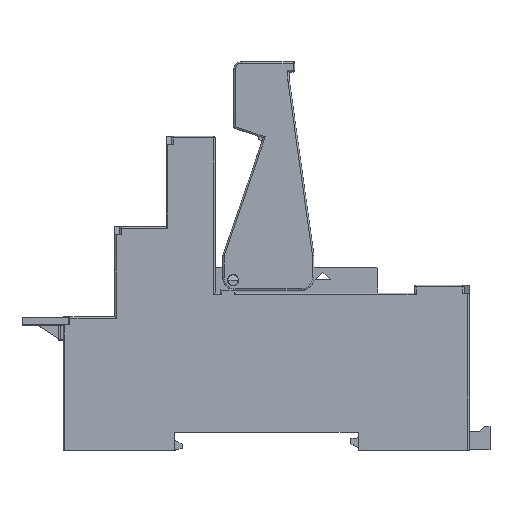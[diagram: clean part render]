
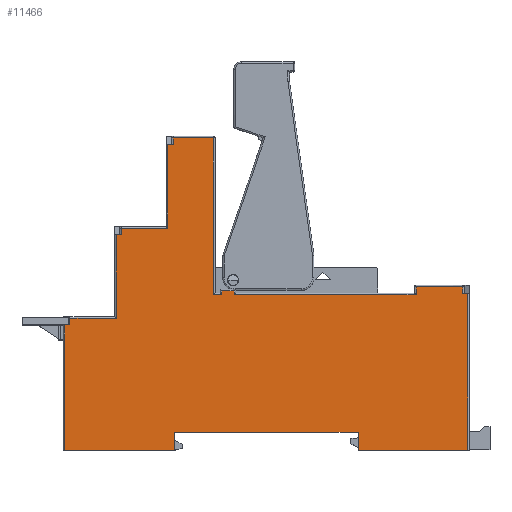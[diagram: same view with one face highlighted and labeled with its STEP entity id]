
A CAD part, top view. The second image highlights one B-rep face of the part: STEP entity #11466.
In plain terms, the highlighted planar face has unit normal (0, 0, 1).
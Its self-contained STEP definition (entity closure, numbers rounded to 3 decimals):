
#464=ORIENTED_EDGE('',*,*,#3830,.F.);
#465=ORIENTED_EDGE('',*,*,#3831,.F.);
#466=ORIENTED_EDGE('',*,*,#3832,.F.);
#467=ORIENTED_EDGE('',*,*,#3833,.F.);
#468=ORIENTED_EDGE('',*,*,#3834,.F.);
#469=ORIENTED_EDGE('',*,*,#3835,.F.);
#470=ORIENTED_EDGE('',*,*,#3836,.F.);
#471=ORIENTED_EDGE('',*,*,#3837,.F.);
#472=ORIENTED_EDGE('',*,*,#3838,.F.);
#473=ORIENTED_EDGE('',*,*,#3839,.F.);
#474=ORIENTED_EDGE('',*,*,#3840,.F.);
#475=ORIENTED_EDGE('',*,*,#3841,.F.);
#476=ORIENTED_EDGE('',*,*,#3842,.F.);
#477=ORIENTED_EDGE('',*,*,#3843,.F.);
#478=ORIENTED_EDGE('',*,*,#3844,.F.);
#479=ORIENTED_EDGE('',*,*,#3845,.F.);
#480=ORIENTED_EDGE('',*,*,#3846,.F.);
#481=ORIENTED_EDGE('',*,*,#3847,.F.);
#482=ORIENTED_EDGE('',*,*,#3848,.F.);
#483=ORIENTED_EDGE('',*,*,#3849,.F.);
#484=ORIENTED_EDGE('',*,*,#3850,.F.);
#485=ORIENTED_EDGE('',*,*,#3851,.F.);
#486=ORIENTED_EDGE('',*,*,#3852,.F.);
#487=ORIENTED_EDGE('',*,*,#3853,.F.);
#488=ORIENTED_EDGE('',*,*,#3854,.F.);
#489=ORIENTED_EDGE('',*,*,#3855,.F.);
#490=ORIENTED_EDGE('',*,*,#3856,.F.);
#491=ORIENTED_EDGE('',*,*,#3857,.F.);
#3830=EDGE_CURVE('',#5513,#5514,#6604,.T.);
#3831=EDGE_CURVE('',#5515,#5513,#6605,.T.);
#3832=EDGE_CURVE('',#5516,#5515,#6606,.T.);
#3833=EDGE_CURVE('',#5517,#5516,#6607,.T.);
#3834=EDGE_CURVE('',#5518,#5517,#6608,.T.);
#3835=EDGE_CURVE('',#5519,#5518,#6609,.T.);
#3836=EDGE_CURVE('',#5520,#5519,#6610,.T.);
#3837=EDGE_CURVE('',#5521,#5520,#6611,.T.);
#3838=EDGE_CURVE('',#5522,#5521,#6612,.T.);
#3839=EDGE_CURVE('',#5523,#5522,#6613,.T.);
#3840=EDGE_CURVE('',#5524,#5523,#6614,.T.);
#3841=EDGE_CURVE('',#5525,#5524,#6615,.T.);
#3842=EDGE_CURVE('',#5526,#5525,#6616,.T.);
#3843=EDGE_CURVE('',#5527,#5526,#6617,.T.);
#3844=EDGE_CURVE('',#5528,#5527,#6618,.T.);
#3845=EDGE_CURVE('',#5529,#5528,#6619,.T.);
#3846=EDGE_CURVE('',#5530,#5529,#6620,.T.);
#3847=EDGE_CURVE('',#5531,#5530,#6621,.T.);
#3848=EDGE_CURVE('',#5532,#5531,#6622,.T.);
#3849=EDGE_CURVE('',#5533,#5532,#6623,.T.);
#3850=EDGE_CURVE('',#5534,#5533,#6624,.T.);
#3851=EDGE_CURVE('',#5535,#5534,#6625,.T.);
#3852=EDGE_CURVE('',#5536,#5535,#6626,.T.);
#3853=EDGE_CURVE('',#5537,#5536,#6627,.T.);
#3854=EDGE_CURVE('',#5538,#5537,#6628,.T.);
#3855=EDGE_CURVE('',#5539,#5538,#6629,.T.);
#3856=EDGE_CURVE('',#5540,#5539,#6630,.T.);
#3857=EDGE_CURVE('',#5514,#5540,#6631,.T.);
#5513=VERTEX_POINT('',#16308);
#5514=VERTEX_POINT('',#16309);
#5515=VERTEX_POINT('',#16311);
#5516=VERTEX_POINT('',#16313);
#5517=VERTEX_POINT('',#16315);
#5518=VERTEX_POINT('',#16317);
#5519=VERTEX_POINT('',#16319);
#5520=VERTEX_POINT('',#16321);
#5521=VERTEX_POINT('',#16323);
#5522=VERTEX_POINT('',#16325);
#5523=VERTEX_POINT('',#16327);
#5524=VERTEX_POINT('',#16329);
#5525=VERTEX_POINT('',#16331);
#5526=VERTEX_POINT('',#16333);
#5527=VERTEX_POINT('',#16335);
#5528=VERTEX_POINT('',#16337);
#5529=VERTEX_POINT('',#16339);
#5530=VERTEX_POINT('',#16341);
#5531=VERTEX_POINT('',#16343);
#5532=VERTEX_POINT('',#16345);
#5533=VERTEX_POINT('',#16347);
#5534=VERTEX_POINT('',#16349);
#5535=VERTEX_POINT('',#16351);
#5536=VERTEX_POINT('',#16353);
#5537=VERTEX_POINT('',#16355);
#5538=VERTEX_POINT('',#16357);
#5539=VERTEX_POINT('',#16359);
#5540=VERTEX_POINT('',#16361);
#6604=LINE('',#16307,#8048);
#6605=LINE('',#16310,#8049);
#6606=LINE('',#16312,#8050);
#6607=LINE('',#16314,#8051);
#6608=LINE('',#16316,#8052);
#6609=LINE('',#16318,#8053);
#6610=LINE('',#16320,#8054);
#6611=LINE('',#16322,#8055);
#6612=LINE('',#16324,#8056);
#6613=LINE('',#16326,#8057);
#6614=LINE('',#16328,#8058);
#6615=LINE('',#16330,#8059);
#6616=LINE('',#16332,#8060);
#6617=LINE('',#16334,#8061);
#6618=LINE('',#16336,#8062);
#6619=LINE('',#16338,#8063);
#6620=LINE('',#16340,#8064);
#6621=LINE('',#16342,#8065);
#6622=LINE('',#16344,#8066);
#6623=LINE('',#16346,#8067);
#6624=LINE('',#16348,#8068);
#6625=LINE('',#16350,#8069);
#6626=LINE('',#16352,#8070);
#6627=LINE('',#16354,#8071);
#6628=LINE('',#16356,#8072);
#6629=LINE('',#16358,#8073);
#6630=LINE('',#16360,#8074);
#6631=LINE('',#16362,#8075);
#8048=VECTOR('',#13093,1000.);
#8049=VECTOR('',#13094,1000.);
#8050=VECTOR('',#13095,1000.);
#8051=VECTOR('',#13096,1000.);
#8052=VECTOR('',#13097,1000.);
#8053=VECTOR('',#13098,1000.);
#8054=VECTOR('',#13099,1000.);
#8055=VECTOR('',#13100,1000.);
#8056=VECTOR('',#13101,1000.);
#8057=VECTOR('',#13102,1000.);
#8058=VECTOR('',#13103,1000.);
#8059=VECTOR('',#13104,1000.);
#8060=VECTOR('',#13105,1000.);
#8061=VECTOR('',#13106,1000.);
#8062=VECTOR('',#13107,1000.);
#8063=VECTOR('',#13108,1000.);
#8064=VECTOR('',#13109,1000.);
#8065=VECTOR('',#13110,1000.);
#8066=VECTOR('',#13111,1000.);
#8067=VECTOR('',#13112,1000.);
#8068=VECTOR('',#13113,1000.);
#8069=VECTOR('',#13114,1000.);
#8070=VECTOR('',#13115,1000.);
#8071=VECTOR('',#13116,1000.);
#8072=VECTOR('',#13117,1000.);
#8073=VECTOR('',#13118,1000.);
#8074=VECTOR('',#13119,1000.);
#8075=VECTOR('',#13120,1000.);
#9492=EDGE_LOOP('',(#464,#465,#466,#467,#468,#469,#470,#471,#472,#473,#474,
#475,#476,#477,#478,#479,#480,#481,#482,#483,#484,#485,#486,#487,#488,#489,
#490,#491));
#10218=FACE_BOUND('',#9492,.T.);
#10944=PLANE('',#12204);
#11466=ADVANCED_FACE('',(#10218),#10944,.T.);
#12204=AXIS2_PLACEMENT_3D('',#16306,#13091,#13092);
#13091=DIRECTION('',(0.,0.,1.));
#13092=DIRECTION('',(1.,0.,0.));
#13093=DIRECTION('',(0.,-1.,0.));
#13094=DIRECTION('',(1.,0.,0.));
#13095=DIRECTION('',(0.,-1.,0.));
#13096=DIRECTION('',(1.,0.,0.));
#13097=DIRECTION('',(0.,1.,0.));
#13098=DIRECTION('',(1.,0.,0.));
#13099=DIRECTION('',(0.,-1.,0.));
#13100=DIRECTION('',(1.,0.,0.));
#13101=DIRECTION('',(0.,1.,0.));
#13102=DIRECTION('',(1.,0.,0.));
#13103=DIRECTION('',(0.,-1.,0.));
#13104=DIRECTION('',(1.,0.,0.));
#13105=DIRECTION('',(0.,1.,0.));
#13106=DIRECTION('',(1.,0.,0.));
#13107=DIRECTION('',(0.,1.,0.));
#13108=DIRECTION('',(1.,0.,0.));
#13109=DIRECTION('',(0.,1.,0.));
#13110=DIRECTION('',(1.,0.,0.));
#13111=DIRECTION('',(0.,1.,0.));
#13112=DIRECTION('',(1.,0.,0.));
#13113=DIRECTION('',(0.,1.,0.));
#13114=DIRECTION('',(1.,0.,0.));
#13115=DIRECTION('',(0.,1.,0.));
#13116=DIRECTION('',(-1.,0.,0.));
#13117=DIRECTION('',(0.,-1.,0.));
#13118=DIRECTION('',(-1.,0.,0.));
#13119=DIRECTION('',(0.,1.,0.));
#13120=DIRECTION('',(-1.,0.,0.));
#16306=CARTESIAN_POINT('',(60.295,29.772,7.9));
#16307=CARTESIAN_POINT('',(102.381,34.181,7.9));
#16308=CARTESIAN_POINT('',(102.381,36.991,7.9));
#16309=CARTESIAN_POINT('',(102.381,6.591,7.9));
#16310=CARTESIAN_POINT('',(102.681,36.991,7.9));
#16311=CARTESIAN_POINT('',(101.381,36.991,7.9));
#16312=CARTESIAN_POINT('',(101.381,34.031,7.9));
#16313=CARTESIAN_POINT('',(101.381,38.291,7.9));
#16314=CARTESIAN_POINT('',(76.164,38.291,7.9));
#16315=CARTESIAN_POINT('',(92.333,38.291,7.9));
#16316=CARTESIAN_POINT('',(92.333,33.431,7.9));
#16317=CARTESIAN_POINT('',(92.333,36.791,7.9));
#16318=CARTESIAN_POINT('',(73.064,36.791,7.9));
#16319=CARTESIAN_POINT('',(57.033,36.791,7.9));
#16320=CARTESIAN_POINT('',(57.033,33.781,7.9));
#16321=CARTESIAN_POINT('',(57.033,37.491,7.9));
#16322=CARTESIAN_POINT('',(57.314,37.491,7.9));
#16323=CARTESIAN_POINT('',(54.633,37.491,7.9));
#16324=CARTESIAN_POINT('',(54.633,33.431,7.9));
#16325=CARTESIAN_POINT('',(54.633,36.791,7.9));
#16326=CARTESIAN_POINT('',(73.064,36.791,7.9));
#16327=CARTESIAN_POINT('',(53.033,36.791,7.9));
#16328=CARTESIAN_POINT('',(53.033,35.931,7.9));
#16329=CARTESIAN_POINT('',(53.033,67.187,7.9));
#16330=CARTESIAN_POINT('',(52.739,67.187,7.9));
#16331=CARTESIAN_POINT('',(45.183,67.187,7.9));
#16332=CARTESIAN_POINT('',(45.183,47.829,7.9));
#16333=CARTESIAN_POINT('',(45.183,65.887,7.9));
#16334=CARTESIAN_POINT('',(52.089,65.887,7.9));
#16335=CARTESIAN_POINT('',(44.183,65.887,7.9));
#16336=CARTESIAN_POINT('',(44.183,39.881,7.9));
#16337=CARTESIAN_POINT('',(44.183,49.691,7.9));
#16338=CARTESIAN_POINT('',(47.739,49.691,7.9));
#16339=CARTESIAN_POINT('',(35.183,49.691,7.9));
#16340=CARTESIAN_POINT('',(35.183,39.081,7.9));
#16341=CARTESIAN_POINT('',(35.183,48.391,7.9));
#16342=CARTESIAN_POINT('',(47.089,48.391,7.9));
#16343=CARTESIAN_POINT('',(34.183,48.391,7.9));
#16344=CARTESIAN_POINT('',(34.183,31.131,7.9));
#16345=CARTESIAN_POINT('',(34.183,32.191,7.9));
#16346=CARTESIAN_POINT('',(42.347,32.191,7.9));
#16347=CARTESIAN_POINT('',(25.183,32.191,7.9));
#16348=CARTESIAN_POINT('',(25.183,30.331,7.9));
#16349=CARTESIAN_POINT('',(25.183,30.891,7.9));
#16350=CARTESIAN_POINT('',(42.089,30.891,7.9));
#16351=CARTESIAN_POINT('',(24.183,30.891,7.9));
#16352=CARTESIAN_POINT('',(24.183,18.181,7.9));
#16353=CARTESIAN_POINT('',(24.183,6.591,7.9));
#16354=CARTESIAN_POINT('',(23.883,6.591,7.9));
#16355=CARTESIAN_POINT('',(45.481,6.591,7.9));
#16356=CARTESIAN_POINT('',(45.481,6.591,7.9));
#16357=CARTESIAN_POINT('',(45.481,10.091,7.9));
#16358=CARTESIAN_POINT('',(45.481,10.091,7.9));
#16359=CARTESIAN_POINT('',(81.081,10.091,7.9));
#16360=CARTESIAN_POINT('',(81.081,10.091,7.9));
#16361=CARTESIAN_POINT('',(81.081,6.591,7.9));
#16362=CARTESIAN_POINT('',(81.081,6.591,7.9));
